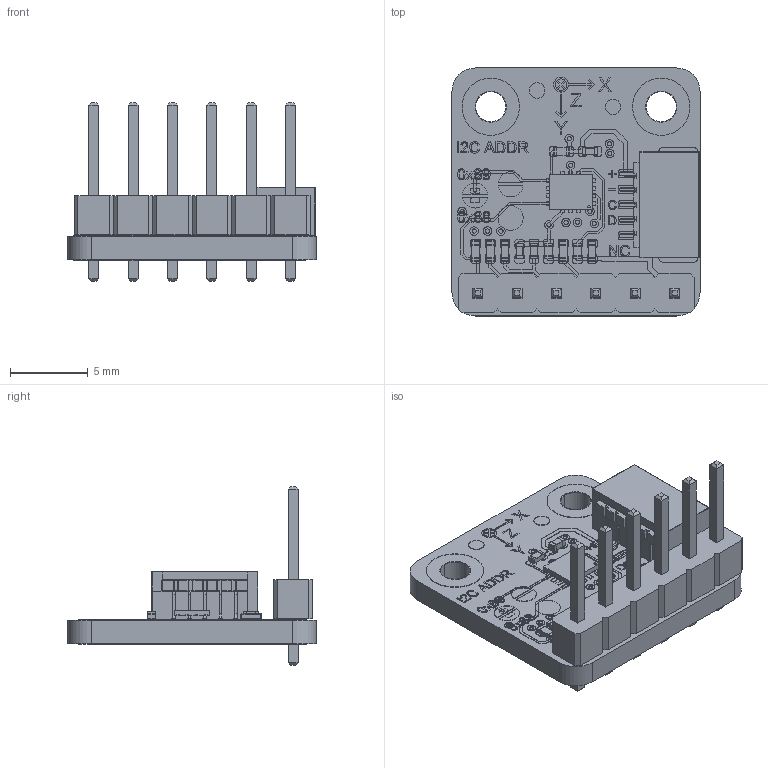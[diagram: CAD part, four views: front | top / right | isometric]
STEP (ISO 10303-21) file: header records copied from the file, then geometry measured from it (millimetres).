
FILE_DESCRIPTION(/* description */ (''),/* implementation_level */ '2;1');
FILE_NAME(/* name */ 'SEN0693',/* time_stamp */ '2026-03-20T13:47:29+08:00',/* author */ (''),/* organization */ (''),/* preprocessor_version */ 'ST-DEVELOPER v19.2',/* originating_system */ 'Rhino 8.0',/* authorisation */ '');
FILE_SCHEMA (('CONFIG_CONTROL_DESIGN'));
Length unit declared in the file: millimetre
Products named in the file (1): Document
Bounding box: 16 x 16 x 11.54 mm (x, y, z)
Volume: 498.2 mm3; surface area: 1656.5 mm2
Topology: 238 solids, 239 shells, 2887 faces, 6880 edges, 4474 vertices
Faces by surface type: plane 1981, cylinder 639, bspline 267
Entity records: 88741 total; most frequent: CARTESIAN_POINT 34726, ORIENTED_EDGE 13742, EDGE_CURVE 6880, B_SPLINE_CURVE_WITH_KNOTS 5375, DIRECTION 4981, VERTEX_POINT 4474, AXIS2_PLACEMENT_3D 3772, EDGE_LOOP 3116
